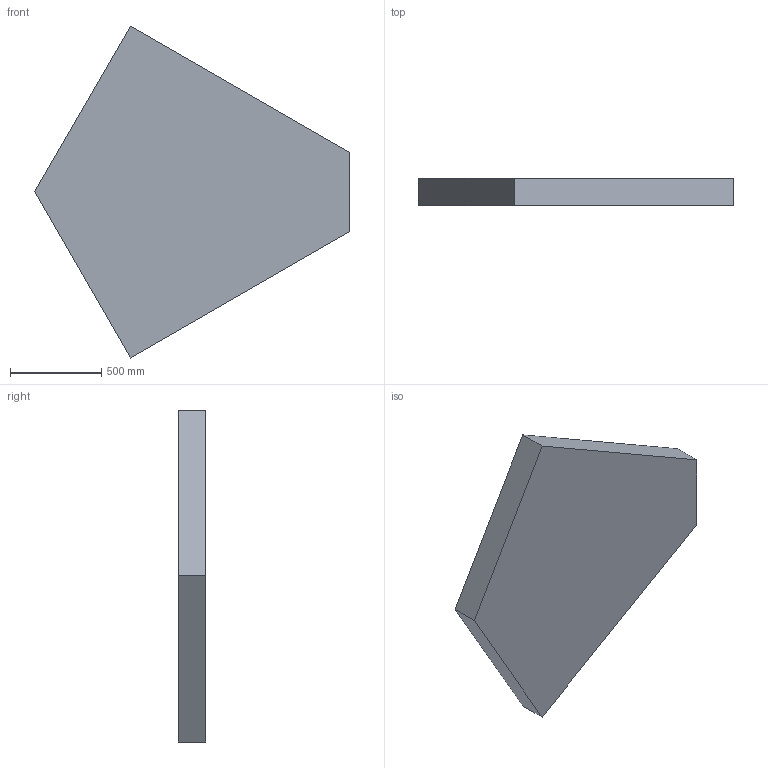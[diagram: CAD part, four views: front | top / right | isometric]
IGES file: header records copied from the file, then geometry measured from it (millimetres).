
Start section:  PTC IGES file: fr_mc_gap_plate.igs
Global section: file name: fr_mc_gap_plate.igs; native system: Pro/ENGINEER by Parametric Technology Corporation; preprocessor: 1999260; author: oshatz; organization: Unknown; date: 000922.101508; units: millimetre
Bounding box: 1729.28 x 150 x 1823.4 mm (x, y, z)
Surface area: 4473393 mm2 (no closed solid volume)
Topology: 0 solids, 0 shells, 7 faces, 30 edges, 30 vertices
Faces by surface type: bspline 7
